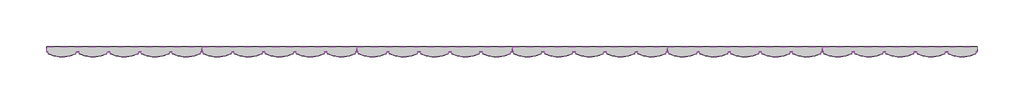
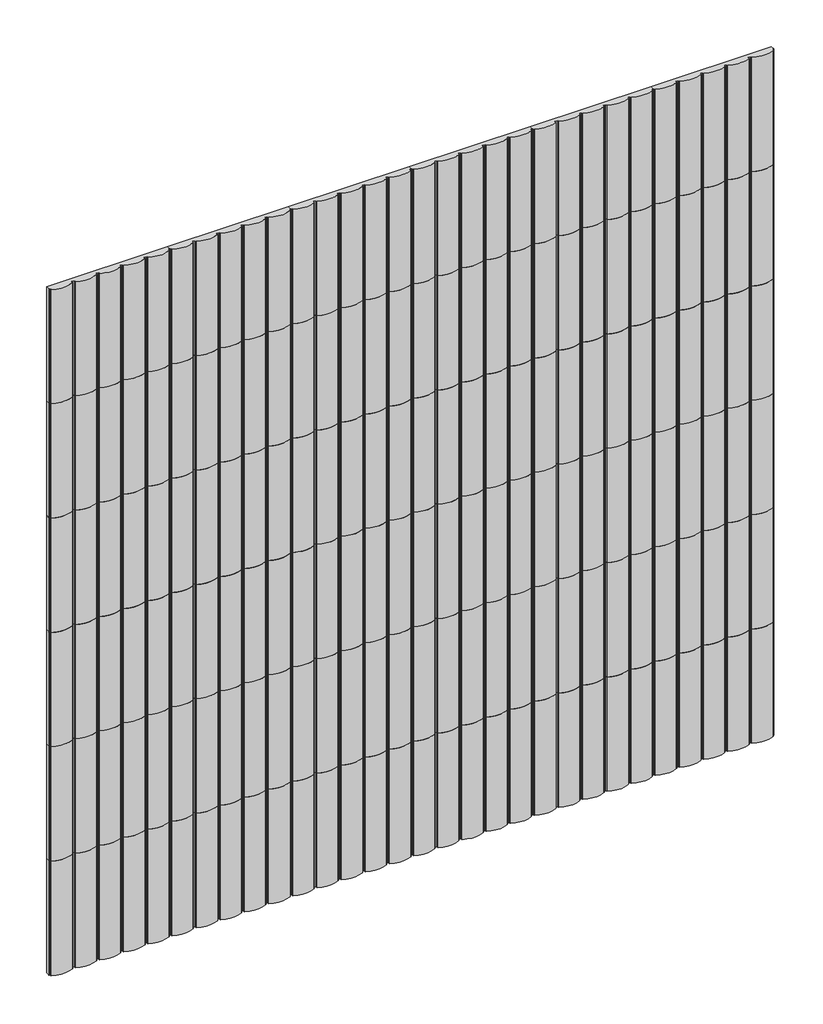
# One storey: 36 proxies.
"""IFC4 building model written with IfcOpenShell, lengths in millimetres."""

from ifc_helpers import new_model, si_unit, origin, place, context, project, spatial, transform, mapped, element, save
from components import specialty_equipment_0b573f12

model = new_model("IFC4")

# Units and contexts
model_context = context("Model", 3, world=origin())
ifc_project = project(units=[si_unit("LENGTHUNIT", "METRE", prefix="MILLI")], contexts=[model_context])

# Site, building, storey
site = spatial("IfcSite", under=ifc_project)
building = spatial("IfcBuilding", under=site)
storey = spatial("IfcBuildingStorey", under=building, Name="Nível 1", Elevation=0.0)

# Proxies
placement = place(None, origin())
specialty_equipment_shape = specialty_equipment_0b573f12(model_context)
element("IfcBuildingElementProxy", 1, Name="Spinneybeck_Porto 1 : Porto 1", ObjectType="Spinneybeck_Porto 1 : Porto 1", at=placement, inside=storey, context=model_context, shape_type="MappedRepresentation", body=[
    mapped(specialty_equipment_shape, transform((-11719.9950363, 552.5357437, 203.2), x_axis=(1.0, 0.0, 0.0), y_axis=(0.0, 0.0, 1.0), z_axis=(0.0, -1.0, 0.0))),
])
element("IfcBuildingElementProxy", 2, Name="Spinneybeck_Porto 1 : Porto 1", ObjectType="Spinneybeck_Porto 1 : Porto 1", at=placement, inside=storey, context=model_context, shape_type="MappedRepresentation", body=[
    mapped(specialty_equipment_shape, transform((-11719.9950363, 552.5357437, 609.6), x_axis=(1.0, 0.0, 0.0), y_axis=(0.0, 0.0, 1.0), z_axis=(0.0, -1.0, 0.0))),
])
element("IfcBuildingElementProxy", 3, Name="Spinneybeck_Porto 1 : Porto 1", ObjectType="Spinneybeck_Porto 1 : Porto 1", at=placement, inside=storey, context=model_context, shape_type="MappedRepresentation", body=[
    mapped(specialty_equipment_shape, transform((-11719.9950363, 552.5357437, 1016.0), x_axis=(1.0, 0.0, 0.0), y_axis=(0.0, 0.0, 1.0), z_axis=(0.0, -1.0, 0.0))),
])
element("IfcBuildingElementProxy", 4, Name="Spinneybeck_Porto 1 : Porto 1", ObjectType="Spinneybeck_Porto 1 : Porto 1", at=placement, inside=storey, context=model_context, shape_type="MappedRepresentation", body=[
    mapped(specialty_equipment_shape, transform((-11719.9950363, 552.5357437, 1422.4), x_axis=(1.0, 0.0, 0.0), y_axis=(0.0, 0.0, 1.0), z_axis=(0.0, -1.0, 0.0))),
])
element("IfcBuildingElementProxy", 5, Name="Spinneybeck_Porto 1 : Porto 1", ObjectType="Spinneybeck_Porto 1 : Porto 1", at=placement, inside=storey, context=model_context, shape_type="MappedRepresentation", body=[
    mapped(specialty_equipment_shape, transform((-11719.9950363, 552.5357437, 1828.8), x_axis=(1.0, 0.0, 0.0), y_axis=(0.0, 0.0, 1.0), z_axis=(0.0, -1.0, 0.0))),
])
element("IfcBuildingElementProxy", 6, Name="Spinneybeck_Porto 1 : Porto 1", ObjectType="Spinneybeck_Porto 1 : Porto 1", at=placement, inside=storey, context=model_context, shape_type="MappedRepresentation", body=[
    mapped(specialty_equipment_shape, transform((-11719.9950363, 552.5357437, 2235.2), x_axis=(1.0, 0.0, 0.0), y_axis=(0.0, 0.0, 1.0), z_axis=(0.0, -1.0, 0.0))),
])
element("IfcBuildingElementProxy", 7, Name="Spinneybeck_Porto 1 : Porto 1", ObjectType="Spinneybeck_Porto 1 : Porto 1", at=placement, inside=storey, context=model_context, shape_type="MappedRepresentation", body=[
    mapped(specialty_equipment_shape, transform((-11313.5950363, 552.5357437, 203.2), x_axis=(1.0, 0.0, 0.0), y_axis=(0.0, 0.0, 1.0), z_axis=(0.0, -1.0, 0.0))),
])
element("IfcBuildingElementProxy", 8, Name="Spinneybeck_Porto 1 : Porto 1", ObjectType="Spinneybeck_Porto 1 : Porto 1", at=placement, inside=storey, context=model_context, shape_type="MappedRepresentation", body=[
    mapped(specialty_equipment_shape, transform((-11313.5950363, 552.5357437, 609.6), x_axis=(1.0, 0.0, 0.0), y_axis=(0.0, 0.0, 1.0), z_axis=(0.0, -1.0, 0.0))),
])
element("IfcBuildingElementProxy", 9, Name="Spinneybeck_Porto 1 : Porto 1", ObjectType="Spinneybeck_Porto 1 : Porto 1", at=placement, inside=storey, context=model_context, shape_type="MappedRepresentation", body=[
    mapped(specialty_equipment_shape, transform((-11313.5950363, 552.5357437, 1016.0), x_axis=(1.0, 0.0, 0.0), y_axis=(0.0, 0.0, 1.0), z_axis=(0.0, -1.0, 0.0))),
])
element("IfcBuildingElementProxy", 10, Name="Spinneybeck_Porto 1 : Porto 1", ObjectType="Spinneybeck_Porto 1 : Porto 1", at=placement, inside=storey, context=model_context, shape_type="MappedRepresentation", body=[
    mapped(specialty_equipment_shape, transform((-11313.5950363, 552.5357437, 1422.4), x_axis=(1.0, 0.0, 0.0), y_axis=(0.0, 0.0, 1.0), z_axis=(0.0, -1.0, 0.0))),
])
element("IfcBuildingElementProxy", 11, Name="Spinneybeck_Porto 1 : Porto 1", ObjectType="Spinneybeck_Porto 1 : Porto 1", at=placement, inside=storey, context=model_context, shape_type="MappedRepresentation", body=[
    mapped(specialty_equipment_shape, transform((-11313.5950363, 552.5357437, 1828.8), x_axis=(1.0, 0.0, 0.0), y_axis=(0.0, 0.0, 1.0), z_axis=(0.0, -1.0, 0.0))),
])
element("IfcBuildingElementProxy", 12, Name="Spinneybeck_Porto 1 : Porto 1", ObjectType="Spinneybeck_Porto 1 : Porto 1", at=placement, inside=storey, context=model_context, shape_type="MappedRepresentation", body=[
    mapped(specialty_equipment_shape, transform((-11313.5950363, 552.5357437, 2235.2), x_axis=(1.0, 0.0, 0.0), y_axis=(0.0, 0.0, 1.0), z_axis=(0.0, -1.0, 0.0))),
])
element("IfcBuildingElementProxy", 13, Name="Spinneybeck_Porto 1 : Porto 1", ObjectType="Spinneybeck_Porto 1 : Porto 1", at=placement, inside=storey, context=model_context, shape_type="MappedRepresentation", body=[
    mapped(specialty_equipment_shape, transform((-10907.1950363, 552.5357437, 203.2), x_axis=(1.0, 0.0, 0.0), y_axis=(0.0, 0.0, 1.0), z_axis=(0.0, -1.0, 0.0))),
])
element("IfcBuildingElementProxy", 14, Name="Spinneybeck_Porto 1 : Porto 1", ObjectType="Spinneybeck_Porto 1 : Porto 1", at=placement, inside=storey, context=model_context, shape_type="MappedRepresentation", body=[
    mapped(specialty_equipment_shape, transform((-10907.1950363, 552.5357437, 609.6), x_axis=(1.0, 0.0, 0.0), y_axis=(0.0, 0.0, 1.0), z_axis=(0.0, -1.0, 0.0))),
])
element("IfcBuildingElementProxy", 15, Name="Spinneybeck_Porto 1 : Porto 1", ObjectType="Spinneybeck_Porto 1 : Porto 1", at=placement, inside=storey, context=model_context, shape_type="MappedRepresentation", body=[
    mapped(specialty_equipment_shape, transform((-10907.1950363, 552.5357437, 1016.0), x_axis=(1.0, 0.0, 0.0), y_axis=(0.0, 0.0, 1.0), z_axis=(0.0, -1.0, 0.0))),
])
element("IfcBuildingElementProxy", 16, Name="Spinneybeck_Porto 1 : Porto 1", ObjectType="Spinneybeck_Porto 1 : Porto 1", at=placement, inside=storey, context=model_context, shape_type="MappedRepresentation", body=[
    mapped(specialty_equipment_shape, transform((-10907.1950363, 552.5357437, 1422.4), x_axis=(1.0, 0.0, 0.0), y_axis=(0.0, 0.0, 1.0), z_axis=(0.0, -1.0, 0.0))),
])
element("IfcBuildingElementProxy", 17, Name="Spinneybeck_Porto 1 : Porto 1", ObjectType="Spinneybeck_Porto 1 : Porto 1", at=placement, inside=storey, context=model_context, shape_type="MappedRepresentation", body=[
    mapped(specialty_equipment_shape, transform((-10907.1950363, 552.5357437, 1828.8), x_axis=(1.0, 0.0, 0.0), y_axis=(0.0, 0.0, 1.0), z_axis=(0.0, -1.0, 0.0))),
])
element("IfcBuildingElementProxy", 18, Name="Spinneybeck_Porto 1 : Porto 1", ObjectType="Spinneybeck_Porto 1 : Porto 1", at=placement, inside=storey, context=model_context, shape_type="MappedRepresentation", body=[
    mapped(specialty_equipment_shape, transform((-10907.1950363, 552.5357437, 2235.2), x_axis=(1.0, 0.0, 0.0), y_axis=(0.0, 0.0, 1.0), z_axis=(0.0, -1.0, 0.0))),
])
element("IfcBuildingElementProxy", 19, Name="Spinneybeck_Porto 1 : Porto 1", ObjectType="Spinneybeck_Porto 1 : Porto 1", at=placement, inside=storey, context=model_context, shape_type="MappedRepresentation", body=[
    mapped(specialty_equipment_shape, transform((-10500.7950363, 552.5357437, 203.2), x_axis=(1.0, 0.0, 0.0), y_axis=(0.0, 0.0, 1.0), z_axis=(0.0, -1.0, 0.0))),
])
element("IfcBuildingElementProxy", 20, Name="Spinneybeck_Porto 1 : Porto 1", ObjectType="Spinneybeck_Porto 1 : Porto 1", at=placement, inside=storey, context=model_context, shape_type="MappedRepresentation", body=[
    mapped(specialty_equipment_shape, transform((-10500.7950363, 552.5357437, 609.6), x_axis=(1.0, 0.0, 0.0), y_axis=(0.0, 0.0, 1.0), z_axis=(0.0, -1.0, 0.0))),
])
element("IfcBuildingElementProxy", 21, Name="Spinneybeck_Porto 1 : Porto 1", ObjectType="Spinneybeck_Porto 1 : Porto 1", at=placement, inside=storey, context=model_context, shape_type="MappedRepresentation", body=[
    mapped(specialty_equipment_shape, transform((-10500.7950363, 552.5357437, 1016.0), x_axis=(1.0, 0.0, 0.0), y_axis=(0.0, 0.0, 1.0), z_axis=(0.0, -1.0, 0.0))),
])
element("IfcBuildingElementProxy", 22, Name="Spinneybeck_Porto 1 : Porto 1", ObjectType="Spinneybeck_Porto 1 : Porto 1", at=placement, inside=storey, context=model_context, shape_type="MappedRepresentation", body=[
    mapped(specialty_equipment_shape, transform((-10500.7950363, 552.5357437, 1422.4), x_axis=(1.0, 0.0, 0.0), y_axis=(0.0, 0.0, 1.0), z_axis=(0.0, -1.0, 0.0))),
])
element("IfcBuildingElementProxy", 23, Name="Spinneybeck_Porto 1 : Porto 1", ObjectType="Spinneybeck_Porto 1 : Porto 1", at=placement, inside=storey, context=model_context, shape_type="MappedRepresentation", body=[
    mapped(specialty_equipment_shape, transform((-10500.7950363, 552.5357437, 1828.8), x_axis=(1.0, 0.0, 0.0), y_axis=(0.0, 0.0, 1.0), z_axis=(0.0, -1.0, 0.0))),
])
element("IfcBuildingElementProxy", 24, Name="Spinneybeck_Porto 1 : Porto 1", ObjectType="Spinneybeck_Porto 1 : Porto 1", at=placement, inside=storey, context=model_context, shape_type="MappedRepresentation", body=[
    mapped(specialty_equipment_shape, transform((-10500.7950363, 552.5357437, 2235.2), x_axis=(1.0, 0.0, 0.0), y_axis=(0.0, 0.0, 1.0), z_axis=(0.0, -1.0, 0.0))),
])
element("IfcBuildingElementProxy", 25, Name="Spinneybeck_Porto 1 : Porto 1", ObjectType="Spinneybeck_Porto 1 : Porto 1", at=placement, inside=storey, context=model_context, shape_type="MappedRepresentation", body=[
    mapped(specialty_equipment_shape, transform((-10094.3950363, 552.5357437, 203.2), x_axis=(1.0, 0.0, 0.0), y_axis=(0.0, 0.0, 1.0), z_axis=(0.0, -1.0, 0.0))),
])
element("IfcBuildingElementProxy", 26, Name="Spinneybeck_Porto 1 : Porto 1", ObjectType="Spinneybeck_Porto 1 : Porto 1", at=placement, inside=storey, context=model_context, shape_type="MappedRepresentation", body=[
    mapped(specialty_equipment_shape, transform((-10094.3950363, 552.5357437, 609.6), x_axis=(1.0, 0.0, 0.0), y_axis=(0.0, 0.0, 1.0), z_axis=(0.0, -1.0, 0.0))),
])
element("IfcBuildingElementProxy", 27, Name="Spinneybeck_Porto 1 : Porto 1", ObjectType="Spinneybeck_Porto 1 : Porto 1", at=placement, inside=storey, context=model_context, shape_type="MappedRepresentation", body=[
    mapped(specialty_equipment_shape, transform((-10094.3950363, 552.5357437, 1016.0), x_axis=(1.0, 0.0, 0.0), y_axis=(0.0, 0.0, 1.0), z_axis=(0.0, -1.0, 0.0))),
])
element("IfcBuildingElementProxy", 28, Name="Spinneybeck_Porto 1 : Porto 1", ObjectType="Spinneybeck_Porto 1 : Porto 1", at=placement, inside=storey, context=model_context, shape_type="MappedRepresentation", body=[
    mapped(specialty_equipment_shape, transform((-10094.3950363, 552.5357437, 1422.4), x_axis=(1.0, 0.0, 0.0), y_axis=(0.0, 0.0, 1.0), z_axis=(0.0, -1.0, 0.0))),
])
element("IfcBuildingElementProxy", 29, Name="Spinneybeck_Porto 1 : Porto 1", ObjectType="Spinneybeck_Porto 1 : Porto 1", at=placement, inside=storey, context=model_context, shape_type="MappedRepresentation", body=[
    mapped(specialty_equipment_shape, transform((-10094.3950363, 552.5357437, 1828.8), x_axis=(1.0, 0.0, 0.0), y_axis=(0.0, 0.0, 1.0), z_axis=(0.0, -1.0, 0.0))),
])
element("IfcBuildingElementProxy", 30, Name="Spinneybeck_Porto 1 : Porto 1", ObjectType="Spinneybeck_Porto 1 : Porto 1", at=placement, inside=storey, context=model_context, shape_type="MappedRepresentation", body=[
    mapped(specialty_equipment_shape, transform((-10094.3950363, 552.5357437, 2235.2), x_axis=(1.0, 0.0, 0.0), y_axis=(0.0, 0.0, 1.0), z_axis=(0.0, -1.0, 0.0))),
])
element("IfcBuildingElementProxy", 31, Name="Spinneybeck_Porto 1 : Porto 1", ObjectType="Spinneybeck_Porto 1 : Porto 1", at=placement, inside=storey, context=model_context, shape_type="MappedRepresentation", body=[
    mapped(specialty_equipment_shape, transform((-9687.9950363, 552.5357437, 203.2), x_axis=(1.0, 0.0, 0.0), y_axis=(0.0, 0.0, 1.0), z_axis=(0.0, -1.0, 0.0))),
])
element("IfcBuildingElementProxy", 32, Name="Spinneybeck_Porto 1 : Porto 1", ObjectType="Spinneybeck_Porto 1 : Porto 1", at=placement, inside=storey, context=model_context, shape_type="MappedRepresentation", body=[
    mapped(specialty_equipment_shape, transform((-9687.9950363, 552.5357437, 609.6), x_axis=(1.0, 0.0, 0.0), y_axis=(0.0, 0.0, 1.0), z_axis=(0.0, -1.0, 0.0))),
])
element("IfcBuildingElementProxy", 33, Name="Spinneybeck_Porto 1 : Porto 1", ObjectType="Spinneybeck_Porto 1 : Porto 1", at=placement, inside=storey, context=model_context, shape_type="MappedRepresentation", body=[
    mapped(specialty_equipment_shape, transform((-9687.9950363, 552.5357437, 1016.0), x_axis=(1.0, 0.0, 0.0), y_axis=(0.0, 0.0, 1.0), z_axis=(0.0, -1.0, 0.0))),
])
element("IfcBuildingElementProxy", 34, Name="Spinneybeck_Porto 1 : Porto 1", ObjectType="Spinneybeck_Porto 1 : Porto 1", at=placement, inside=storey, context=model_context, shape_type="MappedRepresentation", body=[
    mapped(specialty_equipment_shape, transform((-9687.9950363, 552.5357437, 1422.4), x_axis=(1.0, 0.0, 0.0), y_axis=(0.0, 0.0, 1.0), z_axis=(0.0, -1.0, 0.0))),
])
element("IfcBuildingElementProxy", 35, Name="Spinneybeck_Porto 1 : Porto 1", ObjectType="Spinneybeck_Porto 1 : Porto 1", at=placement, inside=storey, context=model_context, shape_type="MappedRepresentation", body=[
    mapped(specialty_equipment_shape, transform((-9687.9950363, 552.5357437, 1828.8), x_axis=(1.0, 0.0, 0.0), y_axis=(0.0, 0.0, 1.0), z_axis=(0.0, -1.0, 0.0))),
])
element("IfcBuildingElementProxy", 36, Name="Spinneybeck_Porto 1 : Porto 1", ObjectType="Spinneybeck_Porto 1 : Porto 1", at=placement, inside=storey, context=model_context, shape_type="MappedRepresentation", body=[
    mapped(specialty_equipment_shape, transform((-9687.9950363, 552.5357437, 2235.2), x_axis=(1.0, 0.0, 0.0), y_axis=(0.0, 0.0, 1.0), z_axis=(0.0, -1.0, 0.0))),
])

save(model, "model.ifc")
